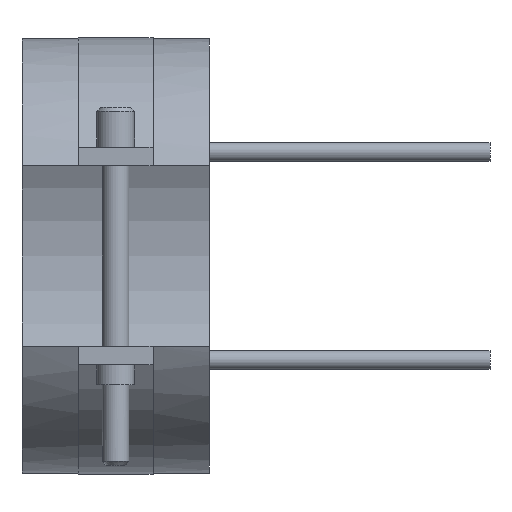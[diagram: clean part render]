
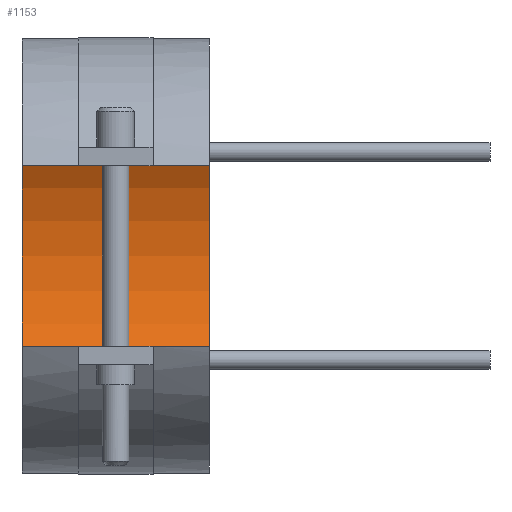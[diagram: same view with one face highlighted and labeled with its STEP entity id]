
A CAD part, front view. The second image highlights one B-rep face of the part: STEP entity #1153.
In plain terms, the highlighted cylindrical face has radius 42.5 mm (diameter 85 mm), a partial arc.
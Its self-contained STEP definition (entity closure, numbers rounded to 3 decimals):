
#834=CARTESIAN_POINT('Vertex',(-20.,0.,-42.5)) ;
#841=CARTESIAN_POINT('Vertex',(20.,0.,-42.5)) ;
#844=CARTESIAN_POINT('Line Origine',(20.,0.,-42.5)) ;
#862=CARTESIAN_POINT('Axis2P3D Location',(-20.,0.,0.)) ;
#866=CARTESIAN_POINT('Vertex',(-20.,0.,42.5)) ;
#923=CARTESIAN_POINT('Vertex',(20.,0.,42.5)) ;
#933=CARTESIAN_POINT('Line Origine',(20.,0.,42.5)) ;
#1024=CARTESIAN_POINT('Axis2P3D Location',(20.,0.,0.)) ;
#1142=CARTESIAN_POINT('Axis2P3D Location',(20.,0.,0.)) ;
#845=DIRECTION('Vector Direction',(1.,0.,0.)) ;
#863=DIRECTION('Axis2P3D Direction',(1.,0.,0.)) ;
#934=DIRECTION('Vector Direction',(1.,0.,0.)) ;
#1025=DIRECTION('Axis2P3D Direction',(1.,0.,0.)) ;
#1143=DIRECTION('Axis2P3D Direction',(1.,0.,-0.)) ;
#1144=DIRECTION('Axis2P3D XDirection',(0.,0.,-1.)) ;
#864=AXIS2_PLACEMENT_3D('Circle Axis2P3D',#862,#863,$) ;
#1026=AXIS2_PLACEMENT_3D('Circle Axis2P3D',#1024,#1025,$) ;
#1145=AXIS2_PLACEMENT_3D('Cylinder Axis2P3D',#1142,#1143,#1144) ;
#1148=ORIENTED_EDGE('',*,*,#1028,.T.) ;
#1149=ORIENTED_EDGE('',*,*,#937,.T.) ;
#1150=ORIENTED_EDGE('',*,*,#868,.F.) ;
#1151=ORIENTED_EDGE('',*,*,#848,.T.) ;
#846=VECTOR('Line Direction',#845,1.) ;
#935=VECTOR('Line Direction',#934,1.) ;
#1153=ADVANCED_FACE('14085040',(#1152),#1146,.F.) ;
#865=CIRCLE('generated circle',#864,42.5) ;
#1027=CIRCLE('generated circle',#1026,42.5) ;
#1146=CYLINDRICAL_SURFACE('generated cylinder',#1145,42.5) ;
#848=EDGE_CURVE('',#835,#842,#847,.T.) ;
#868=EDGE_CURVE('',#835,#867,#865,.T.) ;
#937=EDGE_CURVE('',#924,#867,#936,.F.) ;
#1028=EDGE_CURVE('',#842,#924,#1027,.T.) ;
#1147=EDGE_LOOP('',(#1148,#1149,#1150,#1151)) ;
#1152=FACE_OUTER_BOUND('',#1147,.T.) ;
#847=LINE('Line',#844,#846) ;
#936=LINE('Line',#933,#935) ;
#835=VERTEX_POINT('',#834) ;
#842=VERTEX_POINT('',#841) ;
#867=VERTEX_POINT('',#866) ;
#924=VERTEX_POINT('',#923) ;
